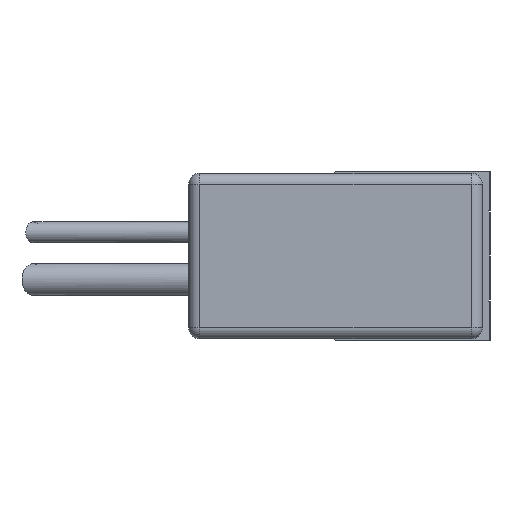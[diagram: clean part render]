
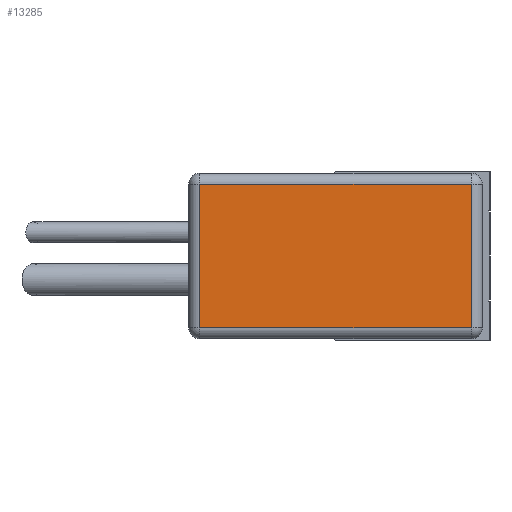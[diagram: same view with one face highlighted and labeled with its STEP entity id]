
A CAD part, left-side view. The second image highlights one B-rep face of the part: STEP entity #13285.
In plain terms, the highlighted planar face has unit normal (-1, 0, 0) as drawn and (0, 0, -1) by its records, which use the part's own axes.
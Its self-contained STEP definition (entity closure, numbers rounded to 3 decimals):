
#782=PLANE('',#21877);
#2520=VERTEX_POINT('',#20548);
#2521=VERTEX_POINT('',#20552);
#2525=VERTEX_POINT('',#20560);
#2530=VERTEX_POINT('',#20573);
#3904=VECTOR('',#16658,1.);
#3906=VECTOR('',#16662,1.);
#3908=VECTOR('',#16666,1.);
#3911=VECTOR('',#16673,1.);
#5269=LINE('',#20585,#3904);
#5271=LINE('',#20588,#3906);
#5273=LINE('',#20591,#3908);
#5276=LINE('',#20596,#3911);
#7094=EDGE_CURVE('',#2521,#2530,#5269,.T.);
#7096=EDGE_CURVE('',#2530,#2525,#5271,.T.);
#7098=EDGE_CURVE('',#2525,#2520,#5273,.T.);
#7101=EDGE_CURVE('',#2520,#2521,#5276,.T.);
#10759=ORIENTED_EDGE('',*,*,#7094,.F.);
#10760=ORIENTED_EDGE('',*,*,#7101,.F.);
#10761=ORIENTED_EDGE('',*,*,#7098,.F.);
#10762=ORIENTED_EDGE('',*,*,#7096,.F.);
#11679=EDGE_LOOP('',(#10759,#10760,#10761,#10762));
#12534=FACE_BOUND('',#11679,.T.);
#13285=ADVANCED_FACE('',(#12534),#782,.T.);
#16658=DIRECTION('',(0.,-1.,0.));
#16662=DIRECTION('',(1.,0.,0.));
#16666=DIRECTION('',(0.,1.,0.));
#16673=DIRECTION('',(-1.,0.,0.));
#16695=DIRECTION('',(0.,0.,-1.));
#20548=CARTESIAN_POINT('',(1.9,5.2,-9.1));
#20552=CARTESIAN_POINT('',(-1.9,5.2,-9.1));
#20560=CARTESIAN_POINT('',(1.9,-2.,-9.1));
#20573=CARTESIAN_POINT('',(-1.9,-2.,-9.1));
#20585=CARTESIAN_POINT('',(-1.9,3.125,-9.1));
#20588=CARTESIAN_POINT('',(-2.,-2.,-9.1));
#20591=CARTESIAN_POINT('',(1.9,0.1,-9.1));
#20596=CARTESIAN_POINT('',(-1.1,5.2,-9.1));
#20623=CARTESIAN_POINT('',(-2.2,2.1,-9.1));
#21877=AXIS2_PLACEMENT_3D('',#20623,#16695,$);
